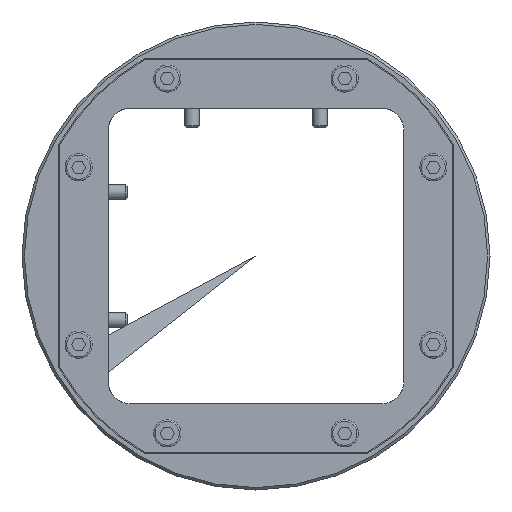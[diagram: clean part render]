
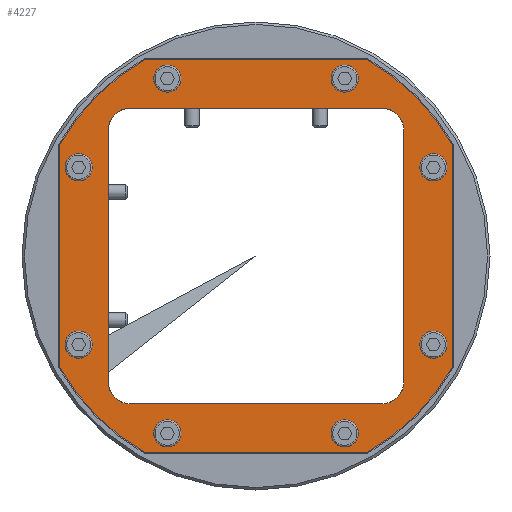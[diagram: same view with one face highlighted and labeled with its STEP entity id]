
A CAD part, front view. The second image highlights one B-rep face of the part: STEP entity #4227.
In plain terms, the highlighted planar face has unit normal (0, -1, 0) as drawn and (0, 0, 1) by its records, which use the part's own axes.
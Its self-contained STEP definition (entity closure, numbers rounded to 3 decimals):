
#298=LINE('',#7681,#450);
#303=LINE('',#7695,#455);
#307=LINE('',#7707,#459);
#311=LINE('',#7719,#463);
#314=LINE('',#7726,#466);
#319=LINE('',#7740,#471);
#323=LINE('',#7752,#475);
#327=LINE('',#7764,#479);
#450=VECTOR('',#5694,1000.);
#455=VECTOR('',#5707,1000.);
#459=VECTOR('',#5719,1000.);
#463=VECTOR('',#5731,1000.);
#466=VECTOR('',#5736,1000.);
#471=VECTOR('',#5749,1000.);
#475=VECTOR('',#5761,1000.);
#479=VECTOR('',#5773,1000.);
#543=PLANE('',#4716);
#1291=ORIENTED_EDGE('',*,*,#1785,.F.);
#1292=ORIENTED_EDGE('',*,*,#1786,.F.);
#1293=ORIENTED_EDGE('',*,*,#1787,.F.);
#1294=ORIENTED_EDGE('',*,*,#1788,.F.);
#1295=ORIENTED_EDGE('',*,*,#1789,.F.);
#1296=ORIENTED_EDGE('',*,*,#1790,.F.);
#1297=ORIENTED_EDGE('',*,*,#1791,.F.);
#1298=ORIENTED_EDGE('',*,*,#1792,.F.);
#1299=ORIENTED_EDGE('',*,*,#1761,.T.);
#1300=ORIENTED_EDGE('',*,*,#1765,.T.);
#1301=ORIENTED_EDGE('',*,*,#1768,.T.);
#1302=ORIENTED_EDGE('',*,*,#1771,.T.);
#1303=ORIENTED_EDGE('',*,*,#1774,.T.);
#1304=ORIENTED_EDGE('',*,*,#1777,.T.);
#1305=ORIENTED_EDGE('',*,*,#1780,.T.);
#1306=ORIENTED_EDGE('',*,*,#1782,.T.);
#1307=ORIENTED_EDGE('',*,*,#1739,.T.);
#1308=ORIENTED_EDGE('',*,*,#1743,.T.);
#1309=ORIENTED_EDGE('',*,*,#1746,.T.);
#1310=ORIENTED_EDGE('',*,*,#1749,.T.);
#1311=ORIENTED_EDGE('',*,*,#1752,.T.);
#1312=ORIENTED_EDGE('',*,*,#1755,.T.);
#1313=ORIENTED_EDGE('',*,*,#1758,.T.);
#1314=ORIENTED_EDGE('',*,*,#1784,.T.);
#1739=EDGE_CURVE('',#2073,#2072,#298,.T.);
#1743=EDGE_CURVE('',#2072,#2075,#2351,.T.);
#1746=EDGE_CURVE('',#2075,#2077,#303,.T.);
#1749=EDGE_CURVE('',#2077,#2079,#2353,.T.);
#1752=EDGE_CURVE('',#2079,#2081,#307,.T.);
#1755=EDGE_CURVE('',#2081,#2083,#2355,.T.);
#1758=EDGE_CURVE('',#2083,#2085,#311,.T.);
#1761=EDGE_CURVE('',#2089,#2088,#314,.T.);
#1765=EDGE_CURVE('',#2088,#2091,#2357,.T.);
#1768=EDGE_CURVE('',#2091,#2093,#319,.T.);
#1771=EDGE_CURVE('',#2093,#2095,#2359,.T.);
#1774=EDGE_CURVE('',#2095,#2097,#323,.T.);
#1777=EDGE_CURVE('',#2097,#2099,#2361,.T.);
#1780=EDGE_CURVE('',#2099,#2101,#327,.T.);
#1782=EDGE_CURVE('',#2101,#2089,#2363,.T.);
#1784=EDGE_CURVE('',#2085,#2073,#2365,.T.);
#1785=EDGE_CURVE('',#2102,#2102,#2366,.T.);
#1786=EDGE_CURVE('',#2103,#2103,#2367,.T.);
#1787=EDGE_CURVE('',#2104,#2104,#2368,.T.);
#1788=EDGE_CURVE('',#2105,#2105,#2369,.T.);
#1789=EDGE_CURVE('',#2106,#2106,#2370,.T.);
#1790=EDGE_CURVE('',#2107,#2107,#2371,.T.);
#1791=EDGE_CURVE('',#2108,#2108,#2372,.T.);
#1792=EDGE_CURVE('',#2109,#2109,#2373,.T.);
#2072=VERTEX_POINT('',#7680);
#2073=VERTEX_POINT('',#7682);
#2075=VERTEX_POINT('',#7688);
#2077=VERTEX_POINT('',#7694);
#2079=VERTEX_POINT('',#7700);
#2081=VERTEX_POINT('',#7706);
#2083=VERTEX_POINT('',#7712);
#2085=VERTEX_POINT('',#7718);
#2088=VERTEX_POINT('',#7725);
#2089=VERTEX_POINT('',#7727);
#2091=VERTEX_POINT('',#7733);
#2093=VERTEX_POINT('',#7739);
#2095=VERTEX_POINT('',#7745);
#2097=VERTEX_POINT('',#7751);
#2099=VERTEX_POINT('',#7757);
#2101=VERTEX_POINT('',#7763);
#2102=VERTEX_POINT('',#7773);
#2103=VERTEX_POINT('',#7775);
#2104=VERTEX_POINT('',#7777);
#2105=VERTEX_POINT('',#7779);
#2106=VERTEX_POINT('',#7781);
#2107=VERTEX_POINT('',#7783);
#2108=VERTEX_POINT('',#7785);
#2109=VERTEX_POINT('',#7787);
#2351=CIRCLE('',#4687,4.55);
#2353=CIRCLE('',#4691,4.55);
#2355=CIRCLE('',#4695,4.55);
#2357=CIRCLE('',#4700,45.8);
#2359=CIRCLE('',#4704,45.8);
#2361=CIRCLE('',#4708,45.8);
#2363=CIRCLE('',#4712,45.8);
#2365=CIRCLE('',#4715,4.55);
#2366=CIRCLE('',#4717,1.6);
#2367=CIRCLE('',#4718,1.6);
#2368=CIRCLE('',#4719,1.6);
#2369=CIRCLE('',#4720,1.6);
#2370=CIRCLE('',#4721,1.6);
#2371=CIRCLE('',#4722,1.6);
#2372=CIRCLE('',#4723,1.6);
#2373=CIRCLE('',#4724,1.6);
#2684=EDGE_LOOP('',(#1291));
#2685=EDGE_LOOP('',(#1292));
#2686=EDGE_LOOP('',(#1293));
#2687=EDGE_LOOP('',(#1294));
#2688=EDGE_LOOP('',(#1295));
#2689=EDGE_LOOP('',(#1296));
#2690=EDGE_LOOP('',(#1297));
#2691=EDGE_LOOP('',(#1298));
#2692=EDGE_LOOP('',(#1299,#1300,#1301,#1302,#1303,#1304,#1305,#1306));
#2693=EDGE_LOOP('',(#1307,#1308,#1309,#1310,#1311,#1312,#1313,#1314));
#3052=FACE_BOUND('',#2684,.T.);
#3053=FACE_BOUND('',#2685,.T.);
#3054=FACE_BOUND('',#2686,.T.);
#3055=FACE_BOUND('',#2687,.T.);
#3056=FACE_BOUND('',#2688,.T.);
#3057=FACE_BOUND('',#2689,.T.);
#3058=FACE_BOUND('',#2690,.T.);
#3059=FACE_BOUND('',#2691,.T.);
#3060=FACE_BOUND('',#2692,.T.);
#3061=FACE_BOUND('',#2693,.T.);
#4227=ADVANCED_FACE('',(#3052,#3053,#3054,#3055,#3056,#3057,#3058,#3059,
#3060,#3061),#543,.T.);
#4687=AXIS2_PLACEMENT_3D('',#7689,#5701,#5702);
#4691=AXIS2_PLACEMENT_3D('',#7701,#5713,#5714);
#4695=AXIS2_PLACEMENT_3D('',#7713,#5725,#5726);
#4700=AXIS2_PLACEMENT_3D('',#7734,#5743,#5744);
#4704=AXIS2_PLACEMENT_3D('',#7746,#5755,#5756);
#4708=AXIS2_PLACEMENT_3D('',#7758,#5767,#5768);
#4712=AXIS2_PLACEMENT_3D('',#7767,#5778,#5779);
#4715=AXIS2_PLACEMENT_3D('',#7770,#5784,#5785);
#4716=AXIS2_PLACEMENT_3D('',#7771,#5786,#5787);
#4717=AXIS2_PLACEMENT_3D('',#7772,#5788,#5789);
#4718=AXIS2_PLACEMENT_3D('',#7774,#5790,#5791);
#4719=AXIS2_PLACEMENT_3D('',#7776,#5792,#5793);
#4720=AXIS2_PLACEMENT_3D('',#7778,#5794,#5795);
#4721=AXIS2_PLACEMENT_3D('',#7780,#5796,#5797);
#4722=AXIS2_PLACEMENT_3D('',#7782,#5798,#5799);
#4723=AXIS2_PLACEMENT_3D('',#7784,#5800,#5801);
#4724=AXIS2_PLACEMENT_3D('',#7786,#5802,#5803);
#5694=DIRECTION('',(0.,1.,0.));
#5701=DIRECTION('',(0.,0.,-1.));
#5702=DIRECTION('',(1.,0.,0.));
#5707=DIRECTION('',(1.,0.,0.));
#5713=DIRECTION('',(0.,0.,-1.));
#5714=DIRECTION('',(-1.,0.,0.));
#5719=DIRECTION('',(0.,-1.,0.));
#5725=DIRECTION('',(0.,0.,-1.));
#5726=DIRECTION('',(1.,0.,0.));
#5731=DIRECTION('',(-1.,0.,0.));
#5736=DIRECTION('',(-1.,0.,0.));
#5743=DIRECTION('',(0.,0.,1.));
#5744=DIRECTION('',(1.,0.,0.));
#5749=DIRECTION('',(0.,-1.,0.));
#5755=DIRECTION('',(0.,0.,1.));
#5756=DIRECTION('',(1.,0.,0.));
#5761=DIRECTION('',(1.,0.,0.));
#5767=DIRECTION('',(0.,0.,1.));
#5768=DIRECTION('',(1.,0.,0.));
#5773=DIRECTION('',(0.,1.,0.));
#5778=DIRECTION('',(0.,0.,1.));
#5779=DIRECTION('',(1.,0.,0.));
#5784=DIRECTION('',(0.,0.,-1.));
#5785=DIRECTION('',(1.,0.,0.));
#5786=DIRECTION('',(0.,0.,1.));
#5787=DIRECTION('',(1.,0.,0.));
#5788=DIRECTION('',(0.,0.,1.));
#5789=DIRECTION('',(0.,1.,0.));
#5790=DIRECTION('',(0.,0.,1.));
#5791=DIRECTION('',(0.,1.,0.));
#5792=DIRECTION('',(0.,0.,1.));
#5793=DIRECTION('',(0.,1.,0.));
#5794=DIRECTION('',(0.,0.,1.));
#5795=DIRECTION('',(0.,1.,0.));
#5796=DIRECTION('',(0.,0.,1.));
#5797=DIRECTION('',(0.,1.,0.));
#5798=DIRECTION('',(0.,0.,1.));
#5799=DIRECTION('',(0.,1.,0.));
#5800=DIRECTION('',(0.,0.,1.));
#5801=DIRECTION('',(0.,1.,0.));
#5802=DIRECTION('',(0.,0.,1.));
#5803=DIRECTION('',(0.,1.,0.));
#7680=CARTESIAN_POINT('',(-30.038,25.488,1.));
#7681=CARTESIAN_POINT('',(-30.038,-25.487,1.));
#7682=CARTESIAN_POINT('',(-30.038,-25.487,1.));
#7688=CARTESIAN_POINT('',(-25.488,30.038,1.));
#7689=CARTESIAN_POINT('',(-25.488,25.488,1.));
#7694=CARTESIAN_POINT('',(25.488,30.038,1.));
#7695=CARTESIAN_POINT('',(-25.488,30.038,1.));
#7700=CARTESIAN_POINT('',(30.038,25.488,1.));
#7701=CARTESIAN_POINT('',(25.488,25.488,1.));
#7706=CARTESIAN_POINT('',(30.037,-25.487,1.));
#7707=CARTESIAN_POINT('',(30.038,25.488,1.));
#7712=CARTESIAN_POINT('',(25.487,-30.037,1.));
#7713=CARTESIAN_POINT('',(25.487,-25.487,1.));
#7718=CARTESIAN_POINT('',(-25.488,-30.037,1.));
#7719=CARTESIAN_POINT('',(25.487,-30.037,1.));
#7725=CARTESIAN_POINT('',(-22.663,39.8,1.));
#7726=CARTESIAN_POINT('',(22.663,39.8,1.));
#7727=CARTESIAN_POINT('',(22.663,39.8,1.));
#7733=CARTESIAN_POINT('',(-39.8,22.663,1.));
#7734=CARTESIAN_POINT('',(0.,0.,1.));
#7739=CARTESIAN_POINT('',(-39.8,-22.663,1.));
#7740=CARTESIAN_POINT('',(-39.8,22.663,1.));
#7745=CARTESIAN_POINT('',(-22.663,-39.8,1.));
#7746=CARTESIAN_POINT('',(0.,0.,1.));
#7751=CARTESIAN_POINT('',(22.663,-39.8,1.));
#7752=CARTESIAN_POINT('',(-22.663,-39.8,1.));
#7757=CARTESIAN_POINT('',(39.8,-22.663,1.));
#7758=CARTESIAN_POINT('',(0.,0.,1.));
#7763=CARTESIAN_POINT('',(39.8,22.663,1.));
#7764=CARTESIAN_POINT('',(39.8,-22.663,1.));
#7767=CARTESIAN_POINT('',(0.,0.,1.));
#7770=CARTESIAN_POINT('',(-25.488,-25.487,1.));
#7771=CARTESIAN_POINT('',(0.,0.,1.));
#7772=CARTESIAN_POINT('',(18.,36.,1.));
#7773=CARTESIAN_POINT('',(18.,37.6,1.));
#7774=CARTESIAN_POINT('',(18.,-36.,1.));
#7775=CARTESIAN_POINT('',(18.,-34.4,1.));
#7776=CARTESIAN_POINT('',(-18.,36.,1.));
#7777=CARTESIAN_POINT('',(-18.,37.6,1.));
#7778=CARTESIAN_POINT('',(-18.,-36.,1.));
#7779=CARTESIAN_POINT('',(-18.,-34.4,1.));
#7780=CARTESIAN_POINT('',(36.,18.,1.));
#7781=CARTESIAN_POINT('',(36.,19.6,1.));
#7782=CARTESIAN_POINT('',(36.,-18.,1.));
#7783=CARTESIAN_POINT('',(36.,-16.4,1.));
#7784=CARTESIAN_POINT('',(-36.,18.,1.));
#7785=CARTESIAN_POINT('',(-36.,19.6,1.));
#7786=CARTESIAN_POINT('',(-36.,-18.,1.));
#7787=CARTESIAN_POINT('',(-36.,-16.4,1.));
